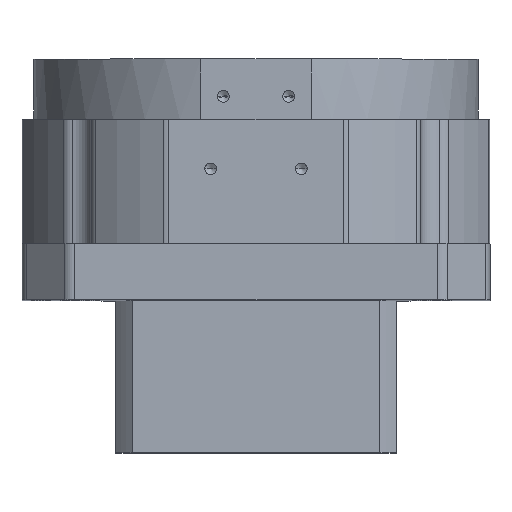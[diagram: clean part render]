
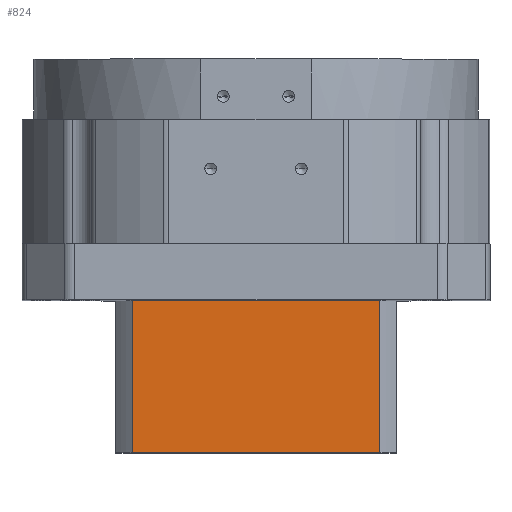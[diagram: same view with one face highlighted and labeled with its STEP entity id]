
A CAD part, top view. The second image highlights one B-rep face of the part: STEP entity #824.
In plain terms, the highlighted planar face has unit normal (0, 0, 1).
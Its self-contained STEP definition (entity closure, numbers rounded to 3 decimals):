
#369 = CARTESIAN_POINT ( 'NONE',  ( 26.458, -32.5, -22.4 ) ) ;
#382 = CARTESIAN_POINT ( 'NONE',  ( 26.458, -32.5, -22.4 ) ) ;
#824 = ADVANCED_FACE ( 'NONE', ( #10050 ), #12699, .T. ) ;
#2154 = VECTOR ( 'NONE', #11345, 1000. ) ;
#2398 = CARTESIAN_POINT ( 'NONE',  ( 0., -32.5, -22.4 ) ) ;
#2746 = CARTESIAN_POINT ( 'NONE',  ( 0., -32.5, -22.4 ) ) ;
#3872 = DIRECTION ( 'NONE',  ( 1., 0., 0. ) ) ;
#4080 = VERTEX_POINT ( 'NONE', #6075 ) ;
#4209 = LINE ( 'NONE', #2398, #7154 ) ;
#4603 = AXIS2_PLACEMENT_3D ( 'NONE', #2746, #10491, #3872 ) ;
#4661 = CARTESIAN_POINT ( 'NONE',  ( -26.458, -32.5, -22.4 ) ) ;
#5124 = LINE ( 'NONE', #369, #2154 ) ;
#5212 = CARTESIAN_POINT ( 'NONE',  ( -26.458, 0., -22.4 ) ) ;
#6075 = CARTESIAN_POINT ( 'NONE',  ( -26.458, -32.5, -22.4 ) ) ;
#6170 = VERTEX_POINT ( 'NONE', #382 ) ;
#6226 = CARTESIAN_POINT ( 'NONE',  ( 0., 0., -22.4 ) ) ;
#6353 = VECTOR ( 'NONE', #13534, 1000. ) ;
#6848 = LINE ( 'NONE', #6226, #9434 ) ;
#7154 = VECTOR ( 'NONE', #9033, 1000. ) ;
#7171 = EDGE_CURVE ( 'NONE', #4080, #13428, #9272, .T. ) ;
#7289 = DIRECTION ( 'NONE',  ( 1., 0., 0. ) ) ;
#7829 = EDGE_CURVE ( 'NONE', #6170, #9613, #5124, .T. ) ;
#7856 = CARTESIAN_POINT ( 'NONE',  ( 26.458, 0., -22.4 ) ) ;
#8266 = ORIENTED_EDGE ( 'NONE', *, *, #7171, .F. ) ;
#9033 = DIRECTION ( 'NONE',  ( 1., 0., 0. ) ) ;
#9035 = ORIENTED_EDGE ( 'NONE', *, *, #10736, .F. ) ;
#9272 = LINE ( 'NONE', #4661, #6353 ) ;
#9434 = VECTOR ( 'NONE', #7289, 1000. ) ;
#9613 = VERTEX_POINT ( 'NONE', #7856 ) ;
#10050 = FACE_OUTER_BOUND ( 'NONE', #10914, .T. ) ;
#10491 = DIRECTION ( 'NONE',  ( 0., 0., 1. ) ) ;
#10736 = EDGE_CURVE ( 'NONE', #13428, #9613, #6848, .T. ) ;
#10914 = EDGE_LOOP ( 'NONE', ( #9035, #8266, #14230, #12849 ) ) ;
#11345 = DIRECTION ( 'NONE',  ( 0., 1., 0. ) ) ;
#12699 = PLANE ( 'NONE',  #4603 ) ;
#12849 = ORIENTED_EDGE ( 'NONE', *, *, #7829, .T. ) ;
#13428 = VERTEX_POINT ( 'NONE', #5212 ) ;
#13534 = DIRECTION ( 'NONE',  ( 0., 1., 0. ) ) ;
#14144 = EDGE_CURVE ( 'NONE', #4080, #6170, #4209, .T. ) ;
#14230 = ORIENTED_EDGE ( 'NONE', *, *, #14144, .T. ) ;
